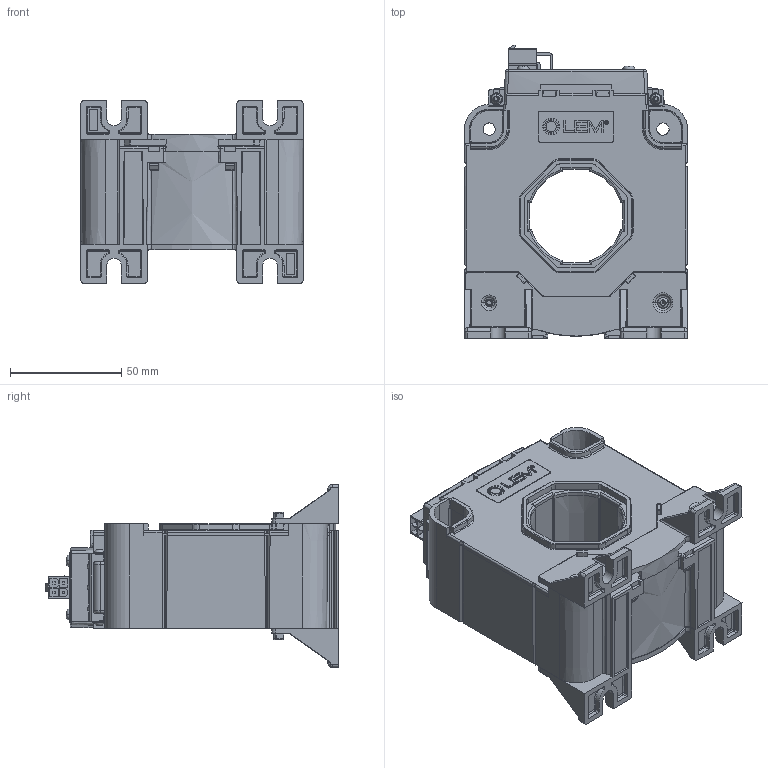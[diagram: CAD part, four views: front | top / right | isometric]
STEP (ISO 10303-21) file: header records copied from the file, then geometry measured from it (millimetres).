
FILE_DESCRIPTION(('Creo Elements/Direct Modeling STEP Export'),'2;1');
FILE_NAME('90.A2.60.026.0_20190823.stp','2019-08-23T10:34:38',(''),(''),'Creo Elements/Direct Modeling STEP processor for AP214 (Solid Model)','Creo Elements/Direct Modeling 20.1 10-Mar-2018 (C) Parametric Technology GmbH','');
FILE_SCHEMA(('AUTOMOTIVE_DESIGN { 1 0 10303 214 1 1 1 1 }'));
Products named in the file (1): LTC-1000-SF-SP26
Bounding box: 100.14 x 131.6 x 82 mm (x, y, z)
Volume: 398497.1 mm3; surface area: 97623.5 mm2
Topology: 1 solids, 22 shells, 2770 faces, 7259 edges, 4575 vertices
Faces by surface type: plane 1283, cylinder 711, bspline 326, torus 176, extrusion 135, cone 119, sphere 20
Entity records: 128375 total; most frequent: CARTESIAN_POINT 61309, ORIENTED_EDGE 14494, DIRECTION 11427, EDGE_CURVE 7239, VERTEX_POINT 4575, VECTOR 4141, LINE 4010, AXIS2_PLACEMENT_3D 3643
